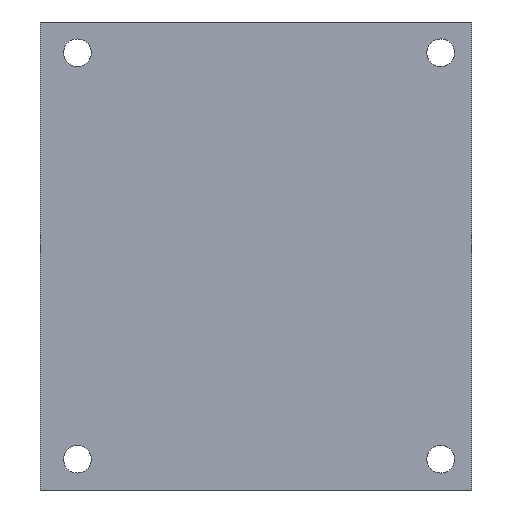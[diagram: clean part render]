
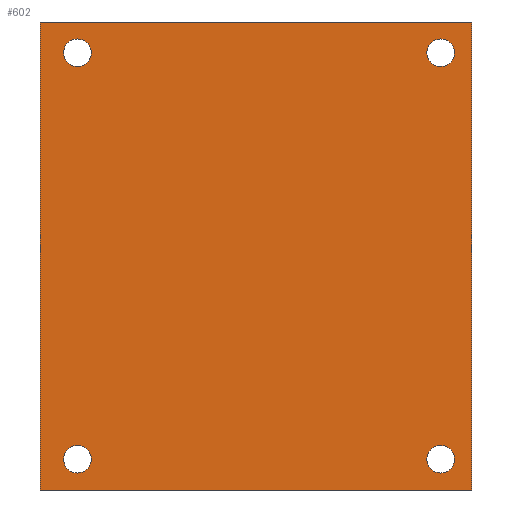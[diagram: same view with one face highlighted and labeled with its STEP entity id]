
A CAD part, front view. The second image highlights one B-rep face of the part: STEP entity #602.
In plain terms, the highlighted planar face has unit normal (0, -1, 0).
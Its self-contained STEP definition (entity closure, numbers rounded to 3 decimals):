
#602=ADVANCED_FACE('',(#1026,#1027,#1028,#1029,#1030),#1031,.F.);
#1026=FACE_OUTER_BOUND('',#1459,.T.);
#1027=FACE_BOUND('',#1460,.T.);
#1028=FACE_BOUND('',#1461,.T.);
#1029=FACE_BOUND('',#1462,.T.);
#1030=FACE_BOUND('',#1463,.T.);
#1031=PLANE('',#1464);
#1459=EDGE_LOOP('',(#2849,#2850,#2851,#2852));
#1460=EDGE_LOOP('',(#2853));
#1461=EDGE_LOOP('',(#2854));
#1462=EDGE_LOOP('',(#2855));
#1463=EDGE_LOOP('',(#2856));
#1464=AXIS2_PLACEMENT_3D('',#2857,#2858,#2859);
#2849=ORIENTED_EDGE('',*,*,#3300,.T.);
#2850=ORIENTED_EDGE('',*,*,#3303,.F.);
#2851=ORIENTED_EDGE('',*,*,#3294,.F.);
#2852=ORIENTED_EDGE('',*,*,#3306,.T.);
#2853=ORIENTED_EDGE('',*,*,#3292,.F.);
#2854=ORIENTED_EDGE('',*,*,#3305,.F.);
#2855=ORIENTED_EDGE('',*,*,#3285,.F.);
#2856=ORIENTED_EDGE('',*,*,#3284,.F.);
#2857=CARTESIAN_POINT('',(0.0,0.0,38.0));
#2858=DIRECTION('',(-0.0,1.0,0.0));
#2859=DIRECTION('',(1.0,0.0,0.0));
#3284=EDGE_CURVE('',#3998,#3998,#3999,.T.);
#3285=EDGE_CURVE('',#4000,#4000,#4001,.T.);
#3292=EDGE_CURVE('',#4014,#4014,#4015,.T.);
#3294=EDGE_CURVE('',#4016,#4018,#4019,.T.);
#3300=EDGE_CURVE('',#4029,#4027,#4030,.T.);
#3303=EDGE_CURVE('',#4018,#4027,#4034,.T.);
#3305=EDGE_CURVE('',#4037,#4037,#4038,.T.);
#3306=EDGE_CURVE('',#4016,#4029,#4039,.T.);
#3998=VERTEX_POINT('',#5158);
#3999=CIRCLE('',#5159,2.25);
#4000=VERTEX_POINT('',#5160);
#4001=CIRCLE('',#5161,2.25);
#4014=VERTEX_POINT('',#5174);
#4015=CIRCLE('',#5175,2.25);
#4016=VERTEX_POINT('',#5176);
#4018=VERTEX_POINT('',#5179);
#4019=LINE('',#5180,#5181);
#4027=VERTEX_POINT('',#5190);
#4029=VERTEX_POINT('',#5193);
#4030=LINE('',#5194,#5195);
#4034=LINE('',#5200,#5201);
#4037=VERTEX_POINT('',#5204);
#4038=CIRCLE('',#5205,2.25);
#4039=LINE('',#5206,#5207);
#5158=CARTESIAN_POINT('',(65.0,0.0,35.25));
#5159=AXIS2_PLACEMENT_3D('',#5776,#5777,#5778);
#5160=CARTESIAN_POINT('',(6.0,0.0,-30.75));
#5161=AXIS2_PLACEMENT_3D('',#5779,#5780,#5781);
#5174=CARTESIAN_POINT('',(6.0,0.0,35.25));
#5175=AXIS2_PLACEMENT_3D('',#5800,#5801,#5802);
#5176=CARTESIAN_POINT('',(0.0,0.0,38.0));
#5179=CARTESIAN_POINT('',(70.0,0.0,38.0));
#5180=CARTESIAN_POINT('',(0.0,0.0,38.0));
#5181=VECTOR('',#5804,1.0);
#5190=CARTESIAN_POINT('',(70.0,0.0,-38.0));
#5193=CARTESIAN_POINT('',(0.0,0.0,-38.0));
#5194=CARTESIAN_POINT('',(0.0,0.0,-38.0));
#5195=VECTOR('',#5816,1.0);
#5200=CARTESIAN_POINT('',(70.0,0.0,38.0));
#5201=VECTOR('',#5821,1.0);
#5204=CARTESIAN_POINT('',(65.0,0.0,-30.75));
#5205=AXIS2_PLACEMENT_3D('',#5825,#5826,#5827);
#5206=CARTESIAN_POINT('',(0.0,0.0,38.0));
#5207=VECTOR('',#5828,1.0);
#5776=CARTESIAN_POINT('',(65.0,0.0,33.0));
#5777=DIRECTION('',(0.0,-1.0,0.0));
#5778=DIRECTION('',(0.0,0.0,1.0));
#5779=CARTESIAN_POINT('',(6.0,0.0,-33.0));
#5780=DIRECTION('',(0.0,-1.0,0.0));
#5781=DIRECTION('',(0.0,0.0,1.0));
#5800=CARTESIAN_POINT('',(6.0,0.0,33.0));
#5801=DIRECTION('',(0.0,-1.0,0.0));
#5802=DIRECTION('',(0.0,0.0,1.0));
#5804=DIRECTION('',(1.0,0.0,0.0));
#5816=DIRECTION('',(1.0,0.0,0.0));
#5821=DIRECTION('',(0.0,0.0,-1.0));
#5825=CARTESIAN_POINT('',(65.0,0.0,-33.0));
#5826=DIRECTION('',(0.0,-1.0,0.0));
#5827=DIRECTION('',(0.0,0.0,1.0));
#5828=DIRECTION('',(0.0,0.0,-1.0));
